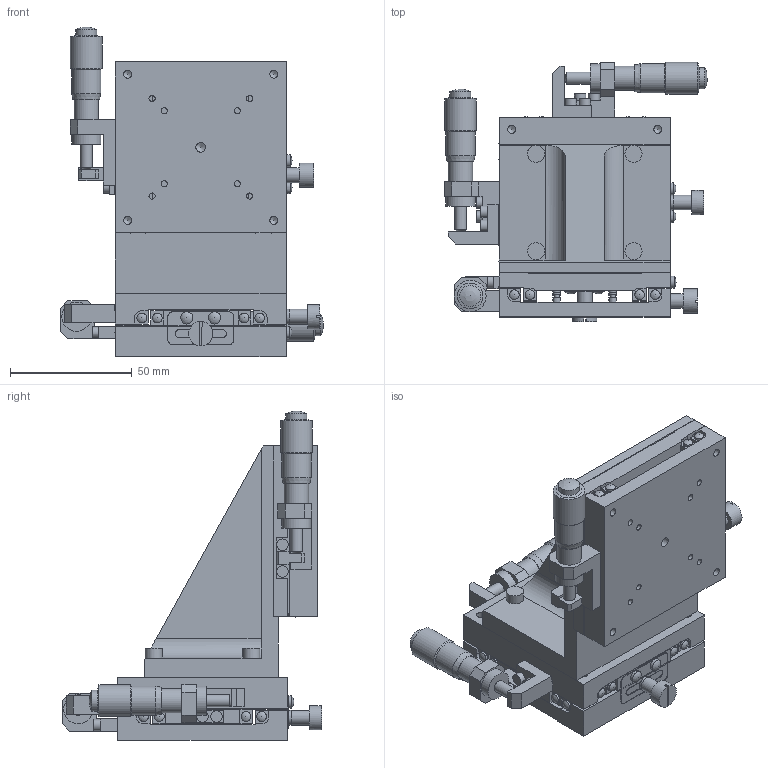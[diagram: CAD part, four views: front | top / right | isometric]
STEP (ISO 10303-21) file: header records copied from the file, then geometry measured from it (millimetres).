
FILE_DESCRIPTION( ( 'STEP AP203' ), '1' );
FILE_NAME( 'C:/3D-Trans/3D_BSS73-70CUR+080828.step', '2008-08-28T10:53:44', ( ' ' ), ( ' ' ), 'XStep 1.0', ' ', ' ' );
FILE_SCHEMA( ( 'CONFIG_CONTROL_DESIGN' ) );
Length unit declared in the file: millimetre
Products named in the file (9): 1; 2; 3; 4; 5; 6; 7; 8; 9
Bounding box: 107.8 x 106.3 x 135.3 mm (x, y, z)
Volume: 299566.2 mm3; surface area: 114797.4 mm2
Topology: 9 solids, 13 shells, 631 faces, 1643 edges, 1088 vertices
Faces by surface type: plane 353, cylinder 222, sphere 37, cone 19
Full cylindrical faces by diameter (mm): 2 x8, 2.5 x16, 2.6 x4, 3 x23, 3.3 x16, 3.5 x6, 4 x28, 4.5 x8, 4.7 x10, 5 x13, 6 x5, 7 x4, 8 x8, 8.6 x3, 10 x6, 10.5 x3, 12 x6, 13 x3
Entity records: 17463 total; most frequent: DIRECTION 3001, CARTESIAN_POINT 2855, ORIENTED_EDGE 2532, EDGE_CURVE 1266, AXIS2_PLACEMENT_3D 1095, EDGE_LOOP 999, VERTEX_POINT 949, LINE 811
